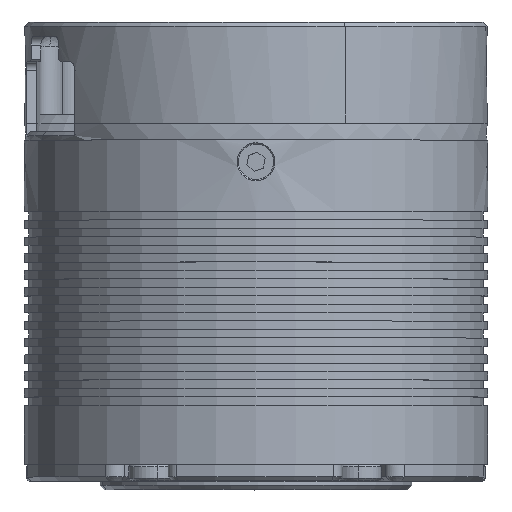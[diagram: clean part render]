
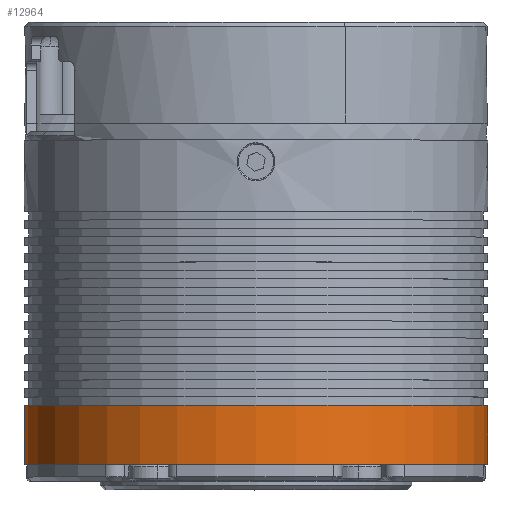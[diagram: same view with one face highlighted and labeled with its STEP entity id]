
A CAD part, top view. The second image highlights one B-rep face of the part: STEP entity #12964.
In plain terms, the highlighted cylindrical face has radius 27.5 mm (diameter 55 mm), a partial arc.
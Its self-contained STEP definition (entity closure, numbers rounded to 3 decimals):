
#2544 = DIRECTION ( 'NONE',  ( 0., 0., -1. ) ) ;
#2689 = VERTEX_POINT ( 'NONE', #3563 ) ;
#3284 = VERTEX_POINT ( 'NONE', #16476 ) ;
#3563 = CARTESIAN_POINT ( 'NONE',  ( 27.5, 0., 7.5 ) ) ;
#3653 = CARTESIAN_POINT ( 'NONE',  ( 27.5, 0., 35.5 ) ) ;
#4228 = ORIENTED_EDGE ( 'NONE', *, *, #7065, .T. ) ;
#4683 = CIRCLE ( 'NONE', #15169, 27.5 ) ;
#4807 = ORIENTED_EDGE ( 'NONE', *, *, #14375, .F. ) ;
#5218 = DIRECTION ( 'NONE',  ( 0., 0., -1. ) ) ;
#6928 = DIRECTION ( 'NONE',  ( -1., 0., 0. ) ) ;
#7065 = EDGE_CURVE ( 'NONE', #2689, #14763, #8291, .T. ) ;
#7595 = CARTESIAN_POINT ( 'NONE',  ( 0., 0., 0.5 ) ) ;
#8291 = LINE ( 'NONE', #3653, #16104 ) ;
#10139 = ORIENTED_EDGE ( 'NONE', *, *, #16784, .F. ) ;
#10454 = LINE ( 'NONE', #24225, #16614 ) ;
#11690 = DIRECTION ( 'NONE',  ( 0., 0., -1. ) ) ;
#11988 = CIRCLE ( 'NONE', #19925, 27.5 ) ;
#12964 = ADVANCED_FACE ( 'NONE', ( #21924 ), #23902, .T. ) ;
#13406 = DIRECTION ( 'NONE',  ( -1., 0., 0. ) ) ;
#14375 = EDGE_CURVE ( 'NONE', #22029, #3284, #10454, .T. ) ;
#14478 = CARTESIAN_POINT ( 'NONE',  ( 27.5, 0., 0.5 ) ) ;
#14763 = VERTEX_POINT ( 'NONE', #14478 ) ;
#15169 = AXIS2_PLACEMENT_3D ( 'NONE', #24916, #25291, #6928 ) ;
#15361 = CARTESIAN_POINT ( 'NONE',  ( 0., 0., 35.5 ) ) ;
#16104 = VECTOR ( 'NONE', #11690, 1000. ) ;
#16245 = AXIS2_PLACEMENT_3D ( 'NONE', #15361, #25329, #19411 ) ;
#16476 = CARTESIAN_POINT ( 'NONE',  ( -27.5, 0., 0.5 ) ) ;
#16614 = VECTOR ( 'NONE', #2544, 1000. ) ;
#16784 = EDGE_CURVE ( 'NONE', #3284, #14763, #11988, .T. ) ;
#19411 = DIRECTION ( 'NONE',  ( -1., 0., 0. ) ) ;
#19428 = CARTESIAN_POINT ( 'NONE',  ( -27.5, 0., 7.5 ) ) ;
#19925 = AXIS2_PLACEMENT_3D ( 'NONE', #7595, #5218, #13406 ) ;
#21924 = FACE_OUTER_BOUND ( 'NONE', #25457, .T. ) ;
#22029 = VERTEX_POINT ( 'NONE', #19428 ) ;
#22528 = EDGE_CURVE ( 'NONE', #22029, #2689, #4683, .T. ) ;
#23902 = CYLINDRICAL_SURFACE ( 'NONE', #16245, 27.5 ) ;
#24225 = CARTESIAN_POINT ( 'NONE',  ( -27.5, 0., 35.5 ) ) ;
#24916 = CARTESIAN_POINT ( 'NONE',  ( 0., 0., 7.5 ) ) ;
#25131 = ORIENTED_EDGE ( 'NONE', *, *, #22528, .T. ) ;
#25291 = DIRECTION ( 'NONE',  ( 0., 0., -1. ) ) ;
#25329 = DIRECTION ( 'NONE',  ( 0., 0., -1. ) ) ;
#25457 = EDGE_LOOP ( 'NONE', ( #25131, #4228, #10139, #4807 ) ) ;
